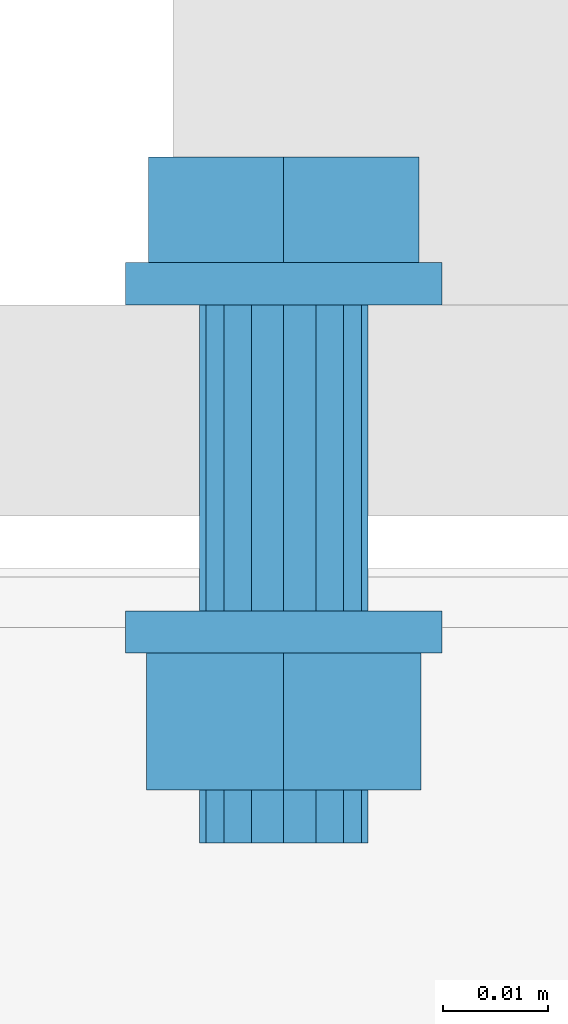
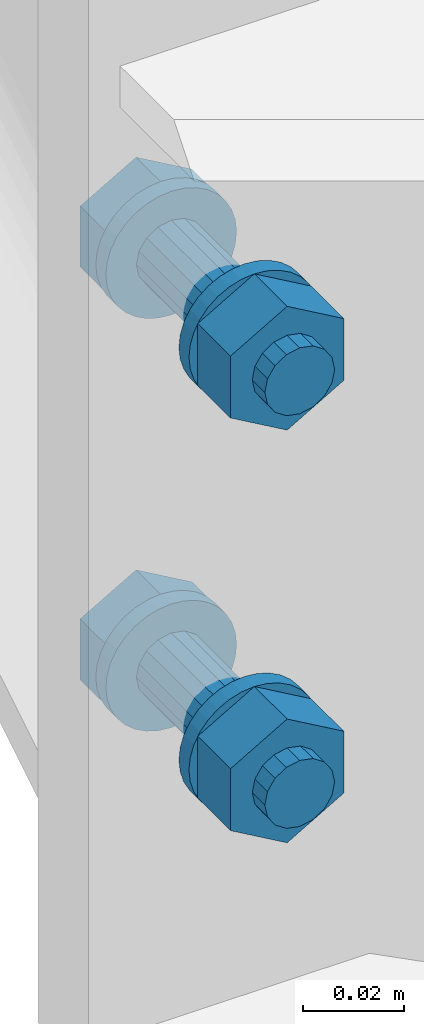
# One storey, part 19 of 21: 2 mechanical fasteners.
"""IFC4X3_ADD2 building model written with IfcOpenShell, lengths in millimetres."""

from ifc_helpers import new_model, entity, si_unit, converted_unit, derived_unit, direction, frame, origin, place, context, project, spatial, faceted_brep, element, save


model = new_model("IFC4X3_ADD2")

# Units and contexts
model_context = context("Model", 3, precision=0.01, world=origin(), true_north=direction((6.123233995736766e-17, 1.0)))
plan_context = context("Plan", 3, precision=0.01, world=origin(), true_north=direction((6.123233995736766e-17, 1.0)))
ifc_project = project(units=[si_unit("LENGTHUNIT", "METRE", prefix="MILLI"), converted_unit("PLANEANGLEUNIT", "DEGREE", entity("IfcPlaneAngleMeasure", 0.017453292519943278), si_unit("PLANEANGLEUNIT", "RADIAN"), dimensions=[0, 0, 0, 0, 0, 0, 0]), si_unit("AREAUNIT", "SQUARE_METRE"), si_unit("VOLUMEUNIT", "CUBIC_METRE"), derived_unit("THERMALTRANSMITTANCEUNIT", [(si_unit("MASSUNIT", "GRAM", prefix="KILO"), 1), (si_unit("THERMODYNAMICTEMPERATUREUNIT", "KELVIN"), -1), (si_unit("TIMEUNIT", "SECOND"), -3)]), derived_unit("USERDEFINED", [(si_unit("MASSUNIT", "GRAM", prefix="KILO"), 1), (si_unit("THERMODYNAMICTEMPERATUREUNIT", "KELVIN"), -1), (si_unit("TIMEUNIT", "SECOND"), -2)]), derived_unit("THERMALRESISTANCEUNIT", [(si_unit("MASSUNIT", "GRAM", prefix="KILO"), -1), (si_unit("TIMEUNIT", "SECOND"), 3), (si_unit("THERMODYNAMICTEMPERATUREUNIT", "KELVIN"), 1)]), si_unit("MASSUNIT", "GRAM", prefix="KILO"), derived_unit("MOMENTOFINERTIAUNIT", [(si_unit("LENGTHUNIT", "METRE"), 4)]), derived_unit("LINEARFORCEUNIT", [(si_unit("MASSUNIT", "GRAM", prefix="KILO"), 1), (si_unit("TIMEUNIT", "SECOND"), -2)]), derived_unit("WARPINGCONSTANTUNIT", [(si_unit("LENGTHUNIT", "METRE"), 6)]), si_unit("PRESSUREUNIT", "PASCAL"), derived_unit("MASSDENSITYUNIT", [(si_unit("MASSUNIT", "GRAM", prefix="KILO"), 1), (si_unit("LENGTHUNIT", "METRE"), -3)]), derived_unit("MODULUSOFELASTICITYUNIT", [(si_unit("MASSUNIT", "GRAM", prefix="KILO"), 1), (si_unit("TIMEUNIT", "SECOND"), -2), (si_unit("LENGTHUNIT", "METRE"), -1)]), derived_unit("THERMALEXPANSIONCOEFFICIENTUNIT", [(si_unit("THERMODYNAMICTEMPERATUREUNIT", "KELVIN"), -1)]), derived_unit("VAPORPERMEABILITYUNIT", [(si_unit("LENGTHUNIT", "METRE"), -1), (si_unit("TIMEUNIT", "SECOND"), 1)]), derived_unit("USERDEFINED", [(si_unit("MASSUNIT", "GRAM", prefix="KILO"), 1), (si_unit("TIMEUNIT", "SECOND"), -3), (si_unit("LENGTHUNIT", "METRE"), 3), (si_unit("ELECTRICCURRENTUNIT", "AMPERE"), -2)]), derived_unit("SPECIFICHEATCAPACITYUNIT", [(si_unit("THERMODYNAMICTEMPERATUREUNIT", "KELVIN"), -1), (si_unit("TIMEUNIT", "SECOND"), -2), (si_unit("LENGTHUNIT", "METRE"), 2)]), derived_unit("THERMALCONDUCTANCEUNIT", [(si_unit("MASSUNIT", "GRAM", prefix="KILO"), 1), (si_unit("THERMODYNAMICTEMPERATUREUNIT", "KELVIN"), -1), (si_unit("TIMEUNIT", "SECOND"), -3), (si_unit("LENGTHUNIT", "METRE"), 1)])], contexts=[model_context, plan_context])

# Site, building, storey
site_placement = place(None, origin())
site = spatial("IfcSite", under=ifc_project, at=site_placement, Name="Default", CompositionType="ELEMENT")
building_placement = place(site_placement, origin())
building = spatial("IfcBuilding", under=site, at=building_placement, Name="Complex structure", CompositionType="ELEMENT")
storey_placement = place(building_placement, frame((0.0, 0.0, 3000.0)))
storey = spatial("IfcBuildingStorey", under=building, at=storey_placement, Name="Level 01", CompositionType="ELEMENT", Elevation=3000.0)

# Mechanical fasteners
mechanical_fastener_1_placement = place(storey_placement, frame((0.0, 0.0, -3000.0)))
element("IfcMechanicalFastener", 1, at=mechanical_fastener_1_placement, inside=storey, ObjectType="Bolt#5", NominalDiameter=16.0, NominalLength=55.0, context=model_context, shape_type="Brep", body=[
    faceted_brep([(-1180.026350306, -1182.866703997, 3703.0), (-1180.026350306, -1186.866703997, 3703.0), (-1180.3145711, -1186.866703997, 3700.07364517), (-1180.3145711, -1182.866703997, 3700.07364517), (-1181.168157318, -1186.866703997, 3697.259748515), (-1181.168157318, -1182.866703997, 3697.259748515), (-1182.554306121, -1186.866703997, 3694.666446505), (-1182.554306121, -1182.866703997, 3694.666446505), (-1184.419748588, -1186.866703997, 3692.393398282), (-1184.419748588, -1182.866703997, 3692.393398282), (-1186.692796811, -1186.866703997, 3690.527955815), (-1186.692796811, -1182.866703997, 3690.527955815), (-1189.28609882, -1186.866703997, 3689.141807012), (-1189.28609882, -1182.866703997, 3689.141807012), (-1192.099995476, -1186.866703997, 3688.288220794), (-1192.099995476, -1182.866703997, 3688.288220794), (-1195.026350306, -1186.866703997, 3688.0), (-1195.026350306, -1182.866703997, 3688.0), (-1197.952705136, -1186.866703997, 3688.288220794), (-1197.952705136, -1182.866703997, 3688.288220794), (-1200.766601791, -1186.866703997, 3689.141807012), (-1200.766601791, -1182.866703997, 3689.141807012), (-1203.359903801, -1186.866703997, 3690.527955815), (-1203.359903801, -1182.866703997, 3690.527955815), (-1205.632952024, -1186.866703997, 3692.393398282), (-1205.632952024, -1182.866703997, 3692.393398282), (-1207.49839449, -1186.866703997, 3694.666446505), (-1207.49839449, -1182.866703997, 3694.666446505), (-1208.884543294, -1186.866703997, 3697.259748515), (-1208.884543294, -1182.866703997, 3697.259748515), (-1209.738129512, -1186.866703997, 3700.07364517), (-1209.738129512, -1182.866703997, 3700.07364517), (-1210.026350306, -1186.866703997, 3703.0), (-1210.026350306, -1182.866703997, 3703.0), (-1209.738129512, -1186.866703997, 3705.92635483), (-1209.738129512, -1182.866703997, 3705.92635483), (-1208.884543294, -1186.866703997, 3708.740251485), (-1208.884543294, -1182.866703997, 3708.740251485), (-1207.49839449, -1186.866703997, 3711.333553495), (-1207.49839449, -1182.866703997, 3711.333553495), (-1205.632952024, -1186.866703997, 3713.606601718), (-1205.632952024, -1182.866703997, 3713.606601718), (-1203.359903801, -1186.866703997, 3715.472044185), (-1203.359903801, -1182.866703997, 3715.472044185), (-1200.766601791, -1186.866703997, 3716.858192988), (-1200.766601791, -1182.866703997, 3716.858192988), (-1197.952705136, -1186.866703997, 3717.711779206), (-1197.952705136, -1182.866703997, 3717.711779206), (-1195.026350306, -1186.866703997, 3718.0), (-1195.026350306, -1182.866703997, 3718.0), (-1192.099995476, -1186.866703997, 3717.711779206), (-1192.099995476, -1182.866703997, 3717.711779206), (-1189.28609882, -1186.866703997, 3716.858192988), (-1189.28609882, -1182.866703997, 3716.858192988), (-1186.692796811, -1186.866703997, 3715.472044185), (-1186.692796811, -1182.866703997, 3715.472044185), (-1184.419748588, -1186.866703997, 3713.606601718), (-1184.419748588, -1182.866703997, 3713.606601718), (-1182.554306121, -1186.866703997, 3711.333553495), (-1182.554306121, -1182.866703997, 3711.333553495), (-1181.168157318, -1186.866703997, 3708.740251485), (-1181.168157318, -1182.866703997, 3708.740251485), (-1180.3145711, -1186.866703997, 3705.92635483), (-1180.3145711, -1182.866703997, 3705.92635483)], [[[0, 1, 2, 3]], [[3, 2, 4, 5]], [[5, 4, 6, 7]], [[7, 6, 8, 9]], [[9, 8, 10, 11]], [[11, 10, 12, 13]], [[13, 12, 14, 15]], [[15, 14, 16, 17]], [[17, 16, 18, 19]], [[19, 18, 20, 21]], [[21, 20, 22, 23]], [[23, 22, 24, 25]], [[25, 24, 26, 27]], [[27, 26, 28, 29]], [[29, 28, 30, 31]], [[31, 30, 32, 33]], [[33, 32, 34, 35]], [[35, 34, 36, 37]], [[37, 36, 38, 39]], [[39, 38, 40, 41]], [[41, 40, 42, 43]], [[43, 42, 44, 45]], [[45, 44, 46, 47]], [[47, 46, 48, 49]], [[49, 48, 50, 51]], [[51, 50, 52, 53]], [[53, 52, 54, 55]], [[55, 54, 56, 57]], [[57, 56, 58, 59]], [[59, 58, 60, 61]], [[61, 60, 62, 63]], [[63, 62, 1, 0]], [[0, 3, 5, 7, 9, 11, 13, 15, 17, 19, 21, 23, 25, 27, 29, 31, 33, 35, 37, 39, 41, 43, 45, 47, 49, 51, 53, 55, 57, 59, 61, 63]], [[1, 62, 60, 58, 56, 54, 52, 50, 48, 46, 44, 42, 40, 38, 36, 34, 32, 30, 28, 26, 24, 22, 20, 18, 16, 14, 12, 10, 8, 6, 4, 2]]]),
    faceted_brep([(-1207.826205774, -1182.866703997, 3695.61), (-1207.826205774, -1172.866703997, 3695.61), (-1195.026350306, -1172.866703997, 3688.22), (-1195.026350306, -1182.866703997, 3688.22), (-1182.226494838, -1172.866703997, 3695.61), (-1182.226494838, -1182.866703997, 3695.61), (-1182.226494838, -1172.866703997, 3710.39), (-1182.226494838, -1182.866703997, 3710.39), (-1195.026350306, -1172.866703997, 3717.78), (-1195.026350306, -1182.866703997, 3717.78), (-1207.826205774, -1172.866703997, 3710.39), (-1207.826205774, -1182.866703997, 3710.39)], [[[0, 1, 2, 3]], [[3, 2, 4, 5]], [[5, 4, 6, 7]], [[7, 6, 8, 9]], [[9, 8, 10, 11]], [[11, 10, 1, 0]], [[4, 2, 1, 10, 8, 6]], [[0, 3, 5, 7, 9, 11]]]),
    faceted_brep([(-1187.026350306, -1186.866703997, 3703.0), (-1187.026350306, -1215.866703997, 3703.0), (-1187.635314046, -1215.866703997, 3699.938532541), (-1187.635314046, -1186.866703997, 3699.938532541), (-1189.369496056, -1215.866703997, 3697.343145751), (-1189.369496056, -1186.866703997, 3697.343145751), (-1191.964882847, -1215.866703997, 3695.60896374), (-1191.964882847, -1186.866703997, 3695.60896374), (-1195.026350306, -1215.866703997, 3695.0), (-1195.026350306, -1186.866703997, 3695.0), (-1198.087817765, -1215.866703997, 3695.60896374), (-1198.087817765, -1186.866703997, 3695.60896374), (-1200.683204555, -1215.866703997, 3697.343145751), (-1200.683204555, -1186.866703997, 3697.343145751), (-1202.417386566, -1215.866703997, 3699.938532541), (-1202.417386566, -1186.866703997, 3699.938532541), (-1203.026350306, -1215.866703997, 3703.0), (-1203.026350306, -1186.866703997, 3703.0), (-1202.417386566, -1215.866703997, 3706.061467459), (-1202.417386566, -1186.866703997, 3706.061467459), (-1200.683204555, -1215.866703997, 3708.656854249), (-1200.683204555, -1186.866703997, 3708.656854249), (-1198.087817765, -1215.866703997, 3710.39103626), (-1198.087817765, -1186.866703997, 3710.39103626), (-1195.026350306, -1215.866703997, 3711.0), (-1195.026350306, -1186.866703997, 3711.0), (-1191.964882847, -1215.866703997, 3710.39103626), (-1191.964882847, -1186.866703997, 3710.39103626), (-1189.369496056, -1215.866703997, 3708.656854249), (-1189.369496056, -1186.866703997, 3708.656854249), (-1187.635314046, -1215.866703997, 3706.061467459), (-1187.635314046, -1186.866703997, 3706.061467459)], [[[0, 1, 2, 3]], [[3, 2, 4, 5]], [[5, 4, 6, 7]], [[7, 6, 8, 9]], [[9, 8, 10, 11]], [[11, 10, 12, 13]], [[13, 12, 14, 15]], [[15, 14, 16, 17]], [[17, 16, 18, 19]], [[19, 18, 20, 21]], [[21, 20, 22, 23]], [[23, 22, 24, 25]], [[25, 24, 26, 27]], [[27, 26, 28, 29]], [[29, 28, 30, 31]], [[31, 30, 1, 0]], [[0, 3, 5, 7, 9, 11, 13, 15, 17, 19, 21, 23, 25, 27, 29, 31]], [[1, 30, 28, 26, 24, 22, 20, 18, 16, 14, 12, 10, 8, 6, 4, 2]]]),
    faceted_brep([(-1180.026350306, -1215.866703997, 3703.0), (-1180.026350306, -1219.866703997, 3703.0), (-1180.3145711, -1219.866703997, 3700.07364517), (-1180.3145711, -1215.866703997, 3700.07364517), (-1181.168157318, -1219.866703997, 3697.259748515), (-1181.168157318, -1215.866703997, 3697.259748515), (-1182.554306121, -1219.866703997, 3694.666446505), (-1182.554306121, -1215.866703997, 3694.666446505), (-1184.419748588, -1219.866703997, 3692.393398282), (-1184.419748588, -1215.866703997, 3692.393398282), (-1186.692796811, -1219.866703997, 3690.527955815), (-1186.692796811, -1215.866703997, 3690.527955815), (-1189.28609882, -1219.866703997, 3689.141807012), (-1189.28609882, -1215.866703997, 3689.141807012), (-1192.099995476, -1219.866703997, 3688.288220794), (-1192.099995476, -1215.866703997, 3688.288220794), (-1195.026350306, -1219.866703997, 3688.0), (-1195.026350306, -1215.866703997, 3688.0), (-1197.952705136, -1219.866703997, 3688.288220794), (-1197.952705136, -1215.866703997, 3688.288220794), (-1200.766601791, -1219.866703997, 3689.141807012), (-1200.766601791, -1215.866703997, 3689.141807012), (-1203.359903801, -1219.866703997, 3690.527955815), (-1203.359903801, -1215.866703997, 3690.527955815), (-1205.632952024, -1219.866703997, 3692.393398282), (-1205.632952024, -1215.866703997, 3692.393398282), (-1207.49839449, -1219.866703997, 3694.666446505), (-1207.49839449, -1215.866703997, 3694.666446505), (-1208.884543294, -1219.866703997, 3697.259748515), (-1208.884543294, -1215.866703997, 3697.259748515), (-1209.738129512, -1219.866703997, 3700.07364517), (-1209.738129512, -1215.866703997, 3700.07364517), (-1210.026350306, -1219.866703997, 3703.0), (-1210.026350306, -1215.866703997, 3703.0), (-1209.738129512, -1219.866703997, 3705.92635483), (-1209.738129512, -1215.866703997, 3705.92635483), (-1208.884543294, -1219.866703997, 3708.740251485), (-1208.884543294, -1215.866703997, 3708.740251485), (-1207.49839449, -1219.866703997, 3711.333553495), (-1207.49839449, -1215.866703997, 3711.333553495), (-1205.632952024, -1219.866703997, 3713.606601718), (-1205.632952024, -1215.866703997, 3713.606601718), (-1203.359903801, -1219.866703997, 3715.472044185), (-1203.359903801, -1215.866703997, 3715.472044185), (-1200.766601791, -1219.866703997, 3716.858192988), (-1200.766601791, -1215.866703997, 3716.858192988), (-1197.952705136, -1219.866703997, 3717.711779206), (-1197.952705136, -1215.866703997, 3717.711779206), (-1195.026350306, -1219.866703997, 3718.0), (-1195.026350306, -1215.866703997, 3718.0), (-1192.099995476, -1219.866703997, 3717.711779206), (-1192.099995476, -1215.866703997, 3717.711779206), (-1189.28609882, -1219.866703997, 3716.858192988), (-1189.28609882, -1215.866703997, 3716.858192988), (-1186.692796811, -1219.866703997, 3715.472044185), (-1186.692796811, -1215.866703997, 3715.472044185), (-1184.419748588, -1219.866703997, 3713.606601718), (-1184.419748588, -1215.866703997, 3713.606601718), (-1182.554306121, -1219.866703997, 3711.333553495), (-1182.554306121, -1215.866703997, 3711.333553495), (-1181.168157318, -1219.866703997, 3708.740251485), (-1181.168157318, -1215.866703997, 3708.740251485), (-1180.3145711, -1219.866703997, 3705.92635483), (-1180.3145711, -1215.866703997, 3705.92635483)], [[[0, 1, 2, 3]], [[3, 2, 4, 5]], [[5, 4, 6, 7]], [[7, 6, 8, 9]], [[9, 8, 10, 11]], [[11, 10, 12, 13]], [[13, 12, 14, 15]], [[15, 14, 16, 17]], [[17, 16, 18, 19]], [[19, 18, 20, 21]], [[21, 20, 22, 23]], [[23, 22, 24, 25]], [[25, 24, 26, 27]], [[27, 26, 28, 29]], [[29, 28, 30, 31]], [[31, 30, 32, 33]], [[33, 32, 34, 35]], [[35, 34, 36, 37]], [[37, 36, 38, 39]], [[39, 38, 40, 41]], [[41, 40, 42, 43]], [[43, 42, 44, 45]], [[45, 44, 46, 47]], [[47, 46, 48, 49]], [[49, 48, 50, 51]], [[51, 50, 52, 53]], [[53, 52, 54, 55]], [[55, 54, 56, 57]], [[57, 56, 58, 59]], [[59, 58, 60, 61]], [[61, 60, 62, 63]], [[63, 62, 1, 0]], [[0, 3, 5, 7, 9, 11, 13, 15, 17, 19, 21, 23, 25, 27, 29, 31, 33, 35, 37, 39, 41, 43, 45, 47, 49, 51, 53, 55, 57, 59, 61, 63]], [[1, 62, 60, 58, 56, 54, 52, 50, 48, 46, 44, 42, 40, 38, 36, 34, 32, 30, 28, 26, 24, 22, 20, 18, 16, 14, 12, 10, 8, 6, 4, 2]]]),
    faceted_brep([(-1208.016731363, -1232.866703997, 3695.5), (-1208.016731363, -1219.866703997, 3695.5), (-1195.026350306, -1219.866703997, 3688.0), (-1195.026350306, -1232.866703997, 3688.0), (-1182.035969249, -1219.866703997, 3695.5), (-1182.035969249, -1232.866703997, 3695.5), (-1182.035969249, -1219.866703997, 3710.5), (-1182.035969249, -1232.866703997, 3710.5), (-1195.026350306, -1219.866703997, 3718.0), (-1195.026350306, -1232.866703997, 3718.0), (-1208.016731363, -1219.866703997, 3710.5), (-1208.016731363, -1232.866703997, 3710.5)], [[[0, 1, 2, 3]], [[3, 2, 4, 5]], [[5, 4, 6, 7]], [[7, 6, 8, 9]], [[9, 8, 10, 11]], [[11, 10, 1, 0]], [[4, 2, 1, 10, 8, 6]], [[0, 3, 5, 7, 9, 11]]]),
    faceted_brep([(-1187.026350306, -1232.866703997, 3703.0), (-1187.026350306, -1237.866703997, 3703.0), (-1187.635314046, -1237.866703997, 3699.938532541), (-1187.635314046, -1232.866703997, 3699.938532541), (-1189.369496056, -1237.866703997, 3697.343145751), (-1189.369496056, -1232.866703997, 3697.343145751), (-1191.964882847, -1237.866703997, 3695.60896374), (-1191.964882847, -1232.866703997, 3695.60896374), (-1195.026350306, -1237.866703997, 3695.0), (-1195.026350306, -1232.866703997, 3695.0), (-1198.087817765, -1237.866703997, 3695.60896374), (-1198.087817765, -1232.866703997, 3695.60896374), (-1200.683204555, -1237.866703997, 3697.343145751), (-1200.683204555, -1232.866703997, 3697.343145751), (-1202.417386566, -1237.866703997, 3699.938532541), (-1202.417386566, -1232.866703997, 3699.938532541), (-1203.026350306, -1237.866703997, 3703.0), (-1203.026350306, -1232.866703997, 3703.0), (-1202.417386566, -1237.866703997, 3706.061467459), (-1202.417386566, -1232.866703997, 3706.061467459), (-1200.683204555, -1237.866703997, 3708.656854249), (-1200.683204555, -1232.866703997, 3708.656854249), (-1198.087817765, -1237.866703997, 3710.39103626), (-1198.087817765, -1232.866703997, 3710.39103626), (-1195.026350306, -1237.866703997, 3711.0), (-1195.026350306, -1232.866703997, 3711.0), (-1191.964882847, -1237.866703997, 3710.39103626), (-1191.964882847, -1232.866703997, 3710.39103626), (-1189.369496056, -1237.866703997, 3708.656854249), (-1189.369496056, -1232.866703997, 3708.656854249), (-1187.635314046, -1237.866703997, 3706.061467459), (-1187.635314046, -1232.866703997, 3706.061467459)], [[[0, 1, 2, 3]], [[3, 2, 4, 5]], [[5, 4, 6, 7]], [[7, 6, 8, 9]], [[9, 8, 10, 11]], [[11, 10, 12, 13]], [[13, 12, 14, 15]], [[15, 14, 16, 17]], [[17, 16, 18, 19]], [[19, 18, 20, 21]], [[21, 20, 22, 23]], [[23, 22, 24, 25]], [[25, 24, 26, 27]], [[27, 26, 28, 29]], [[29, 28, 30, 31]], [[31, 30, 1, 0]], [[0, 3, 5, 7, 9, 11, 13, 15, 17, 19, 21, 23, 25, 27, 29, 31]], [[1, 30, 28, 26, 24, 22, 20, 18, 16, 14, 12, 10, 8, 6, 4, 2]]]),
])
mechanical_fastener_2_placement = place(storey_placement, frame((0.0, 0.0, -3000.0)))
element("IfcMechanicalFastener", 2, at=mechanical_fastener_2_placement, inside=storey, ObjectType="Bolt#6", NominalDiameter=16.0, NominalLength=55.0, context=model_context, shape_type="Brep", body=[
    faceted_brep([(-1180.026350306, -1182.866703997, 3603.0), (-1180.026350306, -1186.866703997, 3603.0), (-1180.3145711, -1186.866703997, 3600.07364517), (-1180.3145711, -1182.866703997, 3600.07364517), (-1181.168157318, -1186.866703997, 3597.259748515), (-1181.168157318, -1182.866703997, 3597.259748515), (-1182.554306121, -1186.866703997, 3594.666446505), (-1182.554306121, -1182.866703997, 3594.666446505), (-1184.419748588, -1186.866703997, 3592.393398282), (-1184.419748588, -1182.866703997, 3592.393398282), (-1186.692796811, -1186.866703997, 3590.527955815), (-1186.692796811, -1182.866703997, 3590.527955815), (-1189.28609882, -1186.866703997, 3589.141807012), (-1189.28609882, -1182.866703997, 3589.141807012), (-1192.099995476, -1186.866703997, 3588.288220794), (-1192.099995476, -1182.866703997, 3588.288220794), (-1195.026350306, -1186.866703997, 3588.0), (-1195.026350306, -1182.866703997, 3588.0), (-1197.952705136, -1186.866703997, 3588.288220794), (-1197.952705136, -1182.866703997, 3588.288220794), (-1200.766601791, -1186.866703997, 3589.141807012), (-1200.766601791, -1182.866703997, 3589.141807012), (-1203.359903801, -1186.866703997, 3590.527955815), (-1203.359903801, -1182.866703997, 3590.527955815), (-1205.632952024, -1186.866703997, 3592.393398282), (-1205.632952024, -1182.866703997, 3592.393398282), (-1207.49839449, -1186.866703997, 3594.666446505), (-1207.49839449, -1182.866703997, 3594.666446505), (-1208.884543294, -1186.866703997, 3597.259748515), (-1208.884543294, -1182.866703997, 3597.259748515), (-1209.738129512, -1186.866703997, 3600.07364517), (-1209.738129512, -1182.866703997, 3600.07364517), (-1210.026350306, -1186.866703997, 3603.0), (-1210.026350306, -1182.866703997, 3603.0), (-1209.738129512, -1186.866703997, 3605.92635483), (-1209.738129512, -1182.866703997, 3605.92635483), (-1208.884543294, -1186.866703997, 3608.740251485), (-1208.884543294, -1182.866703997, 3608.740251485), (-1207.49839449, -1186.866703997, 3611.333553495), (-1207.49839449, -1182.866703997, 3611.333553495), (-1205.632952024, -1186.866703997, 3613.606601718), (-1205.632952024, -1182.866703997, 3613.606601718), (-1203.359903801, -1186.866703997, 3615.472044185), (-1203.359903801, -1182.866703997, 3615.472044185), (-1200.766601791, -1186.866703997, 3616.858192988), (-1200.766601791, -1182.866703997, 3616.858192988), (-1197.952705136, -1186.866703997, 3617.711779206), (-1197.952705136, -1182.866703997, 3617.711779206), (-1195.026350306, -1186.866703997, 3618.0), (-1195.026350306, -1182.866703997, 3618.0), (-1192.099995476, -1186.866703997, 3617.711779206), (-1192.099995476, -1182.866703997, 3617.711779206), (-1189.28609882, -1186.866703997, 3616.858192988), (-1189.28609882, -1182.866703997, 3616.858192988), (-1186.692796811, -1186.866703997, 3615.472044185), (-1186.692796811, -1182.866703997, 3615.472044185), (-1184.419748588, -1186.866703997, 3613.606601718), (-1184.419748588, -1182.866703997, 3613.606601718), (-1182.554306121, -1186.866703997, 3611.333553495), (-1182.554306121, -1182.866703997, 3611.333553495), (-1181.168157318, -1186.866703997, 3608.740251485), (-1181.168157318, -1182.866703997, 3608.740251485), (-1180.3145711, -1186.866703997, 3605.92635483), (-1180.3145711, -1182.866703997, 3605.92635483)], [[[0, 1, 2, 3]], [[3, 2, 4, 5]], [[5, 4, 6, 7]], [[7, 6, 8, 9]], [[9, 8, 10, 11]], [[11, 10, 12, 13]], [[13, 12, 14, 15]], [[15, 14, 16, 17]], [[17, 16, 18, 19]], [[19, 18, 20, 21]], [[21, 20, 22, 23]], [[23, 22, 24, 25]], [[25, 24, 26, 27]], [[27, 26, 28, 29]], [[29, 28, 30, 31]], [[31, 30, 32, 33]], [[33, 32, 34, 35]], [[35, 34, 36, 37]], [[37, 36, 38, 39]], [[39, 38, 40, 41]], [[41, 40, 42, 43]], [[43, 42, 44, 45]], [[45, 44, 46, 47]], [[47, 46, 48, 49]], [[49, 48, 50, 51]], [[51, 50, 52, 53]], [[53, 52, 54, 55]], [[55, 54, 56, 57]], [[57, 56, 58, 59]], [[59, 58, 60, 61]], [[61, 60, 62, 63]], [[63, 62, 1, 0]], [[0, 3, 5, 7, 9, 11, 13, 15, 17, 19, 21, 23, 25, 27, 29, 31, 33, 35, 37, 39, 41, 43, 45, 47, 49, 51, 53, 55, 57, 59, 61, 63]], [[1, 62, 60, 58, 56, 54, 52, 50, 48, 46, 44, 42, 40, 38, 36, 34, 32, 30, 28, 26, 24, 22, 20, 18, 16, 14, 12, 10, 8, 6, 4, 2]]]),
    faceted_brep([(-1207.826205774, -1182.866703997, 3595.61), (-1207.826205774, -1172.866703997, 3595.61), (-1195.026350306, -1172.866703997, 3588.22), (-1195.026350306, -1182.866703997, 3588.22), (-1182.226494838, -1172.866703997, 3595.61), (-1182.226494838, -1182.866703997, 3595.61), (-1182.226494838, -1172.866703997, 3610.39), (-1182.226494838, -1182.866703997, 3610.39), (-1195.026350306, -1172.866703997, 3617.78), (-1195.026350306, -1182.866703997, 3617.78), (-1207.826205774, -1172.866703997, 3610.39), (-1207.826205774, -1182.866703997, 3610.39)], [[[0, 1, 2, 3]], [[3, 2, 4, 5]], [[5, 4, 6, 7]], [[7, 6, 8, 9]], [[9, 8, 10, 11]], [[11, 10, 1, 0]], [[4, 2, 1, 10, 8, 6]], [[0, 3, 5, 7, 9, 11]]]),
    faceted_brep([(-1187.026350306, -1186.866703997, 3603.0), (-1187.026350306, -1215.866703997, 3603.0), (-1187.635314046, -1215.866703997, 3599.938532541), (-1187.635314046, -1186.866703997, 3599.938532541), (-1189.369496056, -1215.866703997, 3597.343145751), (-1189.369496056, -1186.866703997, 3597.343145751), (-1191.964882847, -1215.866703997, 3595.60896374), (-1191.964882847, -1186.866703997, 3595.60896374), (-1195.026350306, -1215.866703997, 3595.0), (-1195.026350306, -1186.866703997, 3595.0), (-1198.087817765, -1215.866703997, 3595.60896374), (-1198.087817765, -1186.866703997, 3595.60896374), (-1200.683204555, -1215.866703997, 3597.343145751), (-1200.683204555, -1186.866703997, 3597.343145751), (-1202.417386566, -1215.866703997, 3599.938532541), (-1202.417386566, -1186.866703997, 3599.938532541), (-1203.026350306, -1215.866703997, 3603.0), (-1203.026350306, -1186.866703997, 3603.0), (-1202.417386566, -1215.866703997, 3606.061467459), (-1202.417386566, -1186.866703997, 3606.061467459), (-1200.683204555, -1215.866703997, 3608.656854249), (-1200.683204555, -1186.866703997, 3608.656854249), (-1198.087817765, -1215.866703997, 3610.39103626), (-1198.087817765, -1186.866703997, 3610.39103626), (-1195.026350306, -1215.866703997, 3611.0), (-1195.026350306, -1186.866703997, 3611.0), (-1191.964882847, -1215.866703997, 3610.39103626), (-1191.964882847, -1186.866703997, 3610.39103626), (-1189.369496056, -1215.866703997, 3608.656854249), (-1189.369496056, -1186.866703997, 3608.656854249), (-1187.635314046, -1215.866703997, 3606.061467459), (-1187.635314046, -1186.866703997, 3606.061467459)], [[[0, 1, 2, 3]], [[3, 2, 4, 5]], [[5, 4, 6, 7]], [[7, 6, 8, 9]], [[9, 8, 10, 11]], [[11, 10, 12, 13]], [[13, 12, 14, 15]], [[15, 14, 16, 17]], [[17, 16, 18, 19]], [[19, 18, 20, 21]], [[21, 20, 22, 23]], [[23, 22, 24, 25]], [[25, 24, 26, 27]], [[27, 26, 28, 29]], [[29, 28, 30, 31]], [[31, 30, 1, 0]], [[0, 3, 5, 7, 9, 11, 13, 15, 17, 19, 21, 23, 25, 27, 29, 31]], [[1, 30, 28, 26, 24, 22, 20, 18, 16, 14, 12, 10, 8, 6, 4, 2]]]),
    faceted_brep([(-1180.026350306, -1215.866703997, 3603.0), (-1180.026350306, -1219.866703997, 3603.0), (-1180.3145711, -1219.866703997, 3600.07364517), (-1180.3145711, -1215.866703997, 3600.07364517), (-1181.168157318, -1219.866703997, 3597.259748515), (-1181.168157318, -1215.866703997, 3597.259748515), (-1182.554306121, -1219.866703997, 3594.666446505), (-1182.554306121, -1215.866703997, 3594.666446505), (-1184.419748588, -1219.866703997, 3592.393398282), (-1184.419748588, -1215.866703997, 3592.393398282), (-1186.692796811, -1219.866703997, 3590.527955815), (-1186.692796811, -1215.866703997, 3590.527955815), (-1189.28609882, -1219.866703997, 3589.141807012), (-1189.28609882, -1215.866703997, 3589.141807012), (-1192.099995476, -1219.866703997, 3588.288220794), (-1192.099995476, -1215.866703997, 3588.288220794), (-1195.026350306, -1219.866703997, 3588.0), (-1195.026350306, -1215.866703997, 3588.0), (-1197.952705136, -1219.866703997, 3588.288220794), (-1197.952705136, -1215.866703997, 3588.288220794), (-1200.766601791, -1219.866703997, 3589.141807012), (-1200.766601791, -1215.866703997, 3589.141807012), (-1203.359903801, -1219.866703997, 3590.527955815), (-1203.359903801, -1215.866703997, 3590.527955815), (-1205.632952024, -1219.866703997, 3592.393398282), (-1205.632952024, -1215.866703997, 3592.393398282), (-1207.49839449, -1219.866703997, 3594.666446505), (-1207.49839449, -1215.866703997, 3594.666446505), (-1208.884543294, -1219.866703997, 3597.259748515), (-1208.884543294, -1215.866703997, 3597.259748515), (-1209.738129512, -1219.866703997, 3600.07364517), (-1209.738129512, -1215.866703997, 3600.07364517), (-1210.026350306, -1219.866703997, 3603.0), (-1210.026350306, -1215.866703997, 3603.0), (-1209.738129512, -1219.866703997, 3605.92635483), (-1209.738129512, -1215.866703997, 3605.92635483), (-1208.884543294, -1219.866703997, 3608.740251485), (-1208.884543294, -1215.866703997, 3608.740251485), (-1207.49839449, -1219.866703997, 3611.333553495), (-1207.49839449, -1215.866703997, 3611.333553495), (-1205.632952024, -1219.866703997, 3613.606601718), (-1205.632952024, -1215.866703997, 3613.606601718), (-1203.359903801, -1219.866703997, 3615.472044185), (-1203.359903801, -1215.866703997, 3615.472044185), (-1200.766601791, -1219.866703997, 3616.858192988), (-1200.766601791, -1215.866703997, 3616.858192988), (-1197.952705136, -1219.866703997, 3617.711779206), (-1197.952705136, -1215.866703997, 3617.711779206), (-1195.026350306, -1219.866703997, 3618.0), (-1195.026350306, -1215.866703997, 3618.0), (-1192.099995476, -1219.866703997, 3617.711779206), (-1192.099995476, -1215.866703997, 3617.711779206), (-1189.28609882, -1219.866703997, 3616.858192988), (-1189.28609882, -1215.866703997, 3616.858192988), (-1186.692796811, -1219.866703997, 3615.472044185), (-1186.692796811, -1215.866703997, 3615.472044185), (-1184.419748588, -1219.866703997, 3613.606601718), (-1184.419748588, -1215.866703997, 3613.606601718), (-1182.554306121, -1219.866703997, 3611.333553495), (-1182.554306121, -1215.866703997, 3611.333553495), (-1181.168157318, -1219.866703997, 3608.740251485), (-1181.168157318, -1215.866703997, 3608.740251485), (-1180.3145711, -1219.866703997, 3605.92635483), (-1180.3145711, -1215.866703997, 3605.92635483)], [[[0, 1, 2, 3]], [[3, 2, 4, 5]], [[5, 4, 6, 7]], [[7, 6, 8, 9]], [[9, 8, 10, 11]], [[11, 10, 12, 13]], [[13, 12, 14, 15]], [[15, 14, 16, 17]], [[17, 16, 18, 19]], [[19, 18, 20, 21]], [[21, 20, 22, 23]], [[23, 22, 24, 25]], [[25, 24, 26, 27]], [[27, 26, 28, 29]], [[29, 28, 30, 31]], [[31, 30, 32, 33]], [[33, 32, 34, 35]], [[35, 34, 36, 37]], [[37, 36, 38, 39]], [[39, 38, 40, 41]], [[41, 40, 42, 43]], [[43, 42, 44, 45]], [[45, 44, 46, 47]], [[47, 46, 48, 49]], [[49, 48, 50, 51]], [[51, 50, 52, 53]], [[53, 52, 54, 55]], [[55, 54, 56, 57]], [[57, 56, 58, 59]], [[59, 58, 60, 61]], [[61, 60, 62, 63]], [[63, 62, 1, 0]], [[0, 3, 5, 7, 9, 11, 13, 15, 17, 19, 21, 23, 25, 27, 29, 31, 33, 35, 37, 39, 41, 43, 45, 47, 49, 51, 53, 55, 57, 59, 61, 63]], [[1, 62, 60, 58, 56, 54, 52, 50, 48, 46, 44, 42, 40, 38, 36, 34, 32, 30, 28, 26, 24, 22, 20, 18, 16, 14, 12, 10, 8, 6, 4, 2]]]),
    faceted_brep([(-1208.016731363, -1232.866703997, 3595.5), (-1208.016731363, -1219.866703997, 3595.5), (-1195.026350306, -1219.866703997, 3588.0), (-1195.026350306, -1232.866703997, 3588.0), (-1182.035969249, -1219.866703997, 3595.5), (-1182.035969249, -1232.866703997, 3595.5), (-1182.035969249, -1219.866703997, 3610.5), (-1182.035969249, -1232.866703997, 3610.5), (-1195.026350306, -1219.866703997, 3618.0), (-1195.026350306, -1232.866703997, 3618.0), (-1208.016731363, -1219.866703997, 3610.5), (-1208.016731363, -1232.866703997, 3610.5)], [[[0, 1, 2, 3]], [[3, 2, 4, 5]], [[5, 4, 6, 7]], [[7, 6, 8, 9]], [[9, 8, 10, 11]], [[11, 10, 1, 0]], [[4, 2, 1, 10, 8, 6]], [[0, 3, 5, 7, 9, 11]]]),
    faceted_brep([(-1187.026350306, -1232.866703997, 3603.0), (-1187.026350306, -1237.866703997, 3603.0), (-1187.635314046, -1237.866703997, 3599.938532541), (-1187.635314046, -1232.866703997, 3599.938532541), (-1189.369496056, -1237.866703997, 3597.343145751), (-1189.369496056, -1232.866703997, 3597.343145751), (-1191.964882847, -1237.866703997, 3595.60896374), (-1191.964882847, -1232.866703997, 3595.60896374), (-1195.026350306, -1237.866703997, 3595.0), (-1195.026350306, -1232.866703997, 3595.0), (-1198.087817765, -1237.866703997, 3595.60896374), (-1198.087817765, -1232.866703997, 3595.60896374), (-1200.683204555, -1237.866703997, 3597.343145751), (-1200.683204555, -1232.866703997, 3597.343145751), (-1202.417386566, -1237.866703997, 3599.938532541), (-1202.417386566, -1232.866703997, 3599.938532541), (-1203.026350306, -1237.866703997, 3603.0), (-1203.026350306, -1232.866703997, 3603.0), (-1202.417386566, -1237.866703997, 3606.061467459), (-1202.417386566, -1232.866703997, 3606.061467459), (-1200.683204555, -1237.866703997, 3608.656854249), (-1200.683204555, -1232.866703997, 3608.656854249), (-1198.087817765, -1237.866703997, 3610.39103626), (-1198.087817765, -1232.866703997, 3610.39103626), (-1195.026350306, -1237.866703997, 3611.0), (-1195.026350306, -1232.866703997, 3611.0), (-1191.964882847, -1237.866703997, 3610.39103626), (-1191.964882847, -1232.866703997, 3610.39103626), (-1189.369496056, -1237.866703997, 3608.656854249), (-1189.369496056, -1232.866703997, 3608.656854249), (-1187.635314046, -1237.866703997, 3606.061467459), (-1187.635314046, -1232.866703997, 3606.061467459)], [[[0, 1, 2, 3]], [[3, 2, 4, 5]], [[5, 4, 6, 7]], [[7, 6, 8, 9]], [[9, 8, 10, 11]], [[11, 10, 12, 13]], [[13, 12, 14, 15]], [[15, 14, 16, 17]], [[17, 16, 18, 19]], [[19, 18, 20, 21]], [[21, 20, 22, 23]], [[23, 22, 24, 25]], [[25, 24, 26, 27]], [[27, 26, 28, 29]], [[29, 28, 30, 31]], [[31, 30, 1, 0]], [[0, 3, 5, 7, 9, 11, 13, 15, 17, 19, 21, 23, 25, 27, 29, 31]], [[1, 30, 28, 26, 24, 22, 20, 18, 16, 14, 12, 10, 8, 6, 4, 2]]]),
])

save(model, "model.ifc")
